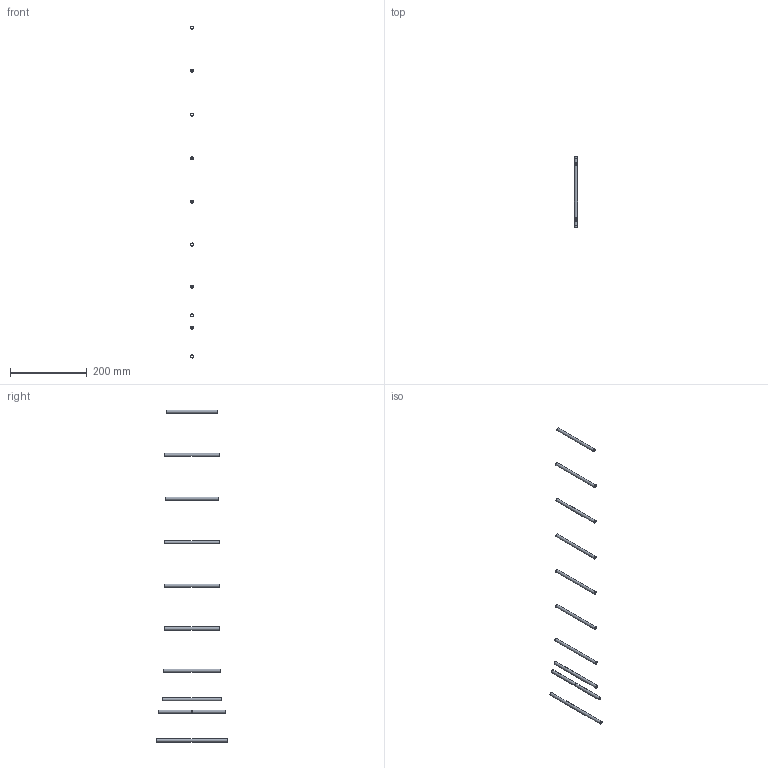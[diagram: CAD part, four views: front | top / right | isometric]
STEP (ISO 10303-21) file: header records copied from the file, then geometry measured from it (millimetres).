
FILE_DESCRIPTION((''),'2;1');
FILE_NAME('D:\Old Computer\Евгений\Autodesk\Projects\Antenna\YG800mhz\YG10.800.D.stp','2014-05-11T18:53:16',('Evgeny'),(''),'Autodesk Inventor 2011','Autodesk Inventor 2011','');
FILE_SCHEMA(('AUTOMOTIVE_DESIGN { 1 0 10303 214 1 1 1 1 }'));
Length unit declared in the file: millimetre
Products named in the file (1): YG10.800
Bounding box: 8 x 184 x 866 mm (x, y, z)
Volume: 32975.7 mm3; surface area: 66435.3 mm2
Topology: 11 solids, 11 shells, 44 faces, 66 edges, 44 vertices
Faces by surface type: cylinder 22, plane 22
Full cylindrical faces by diameter (mm): 6 x11, 8 x11
Entity records: 974 total; most frequent: DIRECTION 178, CARTESIAN_POINT 133, AXIS2_PLACEMENT_3D 89, ORIENTED_EDGE 88, EDGE_LOOP 88, VERTEX_POINT 44, CIRCLE 44, EDGE_CURVE 44
